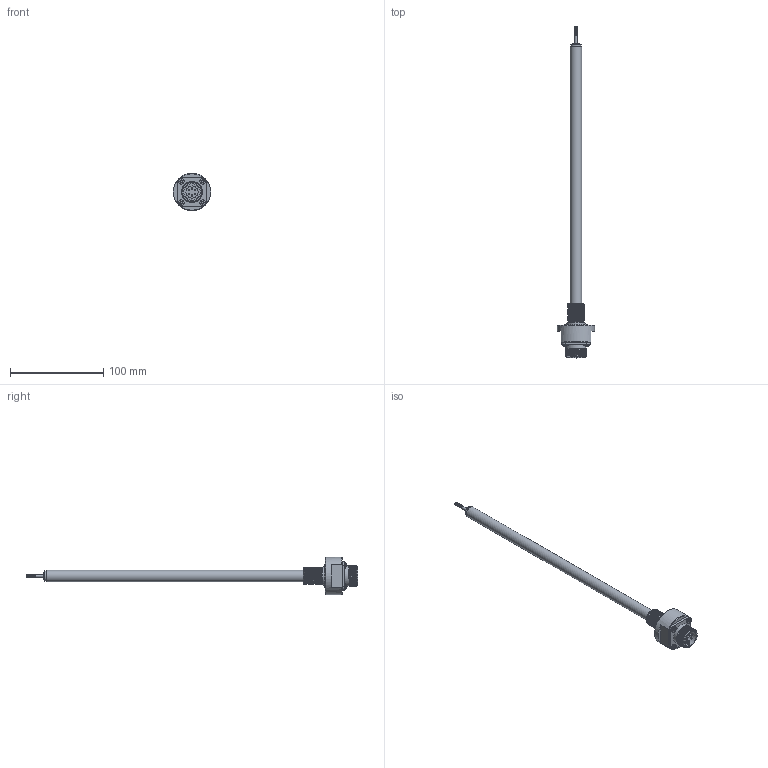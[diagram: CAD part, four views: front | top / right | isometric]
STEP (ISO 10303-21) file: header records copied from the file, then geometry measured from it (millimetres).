
FILE_DESCRIPTION( ( 'Unknown' ), '1' );
FILE_NAME( 'N:/Engineering/CAD/LVDT/HYD/Kunden-3D-Modell/SM180-HYD-18-S.stp', 'Unknown', ( 'Unknown' ), ( 'Unknown' ), 'PSStep 17.0.49', 'Unknown', ' ' );
FILE_SCHEMA( ( 'AUTOMOTIVE_DESIGN { 1 0 10303 214 1 1 1 1 }' ) );
Length unit declared in the file: millimetre
Products named in the file (9): Assem1; Endkappe; Innenrohr_SM5-HYD; Kernverlängerung_SM5-HYD; SM-HYD-Flansch_M18_vereinfacht; O-Ring_15,4x2,1; Aussenrohr_SM180-HYD_vereinfacht; MIL-Stecker_2; DIN7985_M3-6_Torx
Assembly tree (11 placements, depth 2):
  Assem1
    Endkappe
    Innenrohr_SM5-HYD
    Kernverlängerung_SM5-HYD
    SM-HYD-Flansch_M18_vereinfacht
    O-Ring_15,4x2,1
    Aussenrohr_SM180-HYD_vereinfacht
    MIL-Stecker_2
    DIN7985_M3-6_Torx  x4
Bounding box: 40 x 355.9 x 40 mm (x, y, z)
Volume: 63424 mm3; surface area: 29386.6 mm2
Topology: 11 solids, 11 shells, 255 faces, 589 edges, 385 vertices
Faces by surface type: plane 132, cylinder 82, cone 22, bspline 14, sphere 4, torus 1
Full cylindrical faces by diameter (mm): 1.4 x6, 1.6 x6, 2.013 x1, 2.4 x1, 2.5 x8, 3 x9, 4 x1, 6 x6, 8 x1, 10 x1, 11 x2, 12 x3, 13 x1, 15.8 x1, 17.6 x1, 18.8 x1, 20.2 x1, 22.3 x7, 24 x1, 40 x1
Entity records: 13563 total; most frequent: CARTESIAN_POINT 8176, DIRECTION 792, ORIENTED_EDGE 656, AXIS2_PLACEMENT_3D 336, EDGE_CURVE 328, EDGE_LOOP 289, VERTEX_POINT 255, FACE_OUTER_BOUND 236
